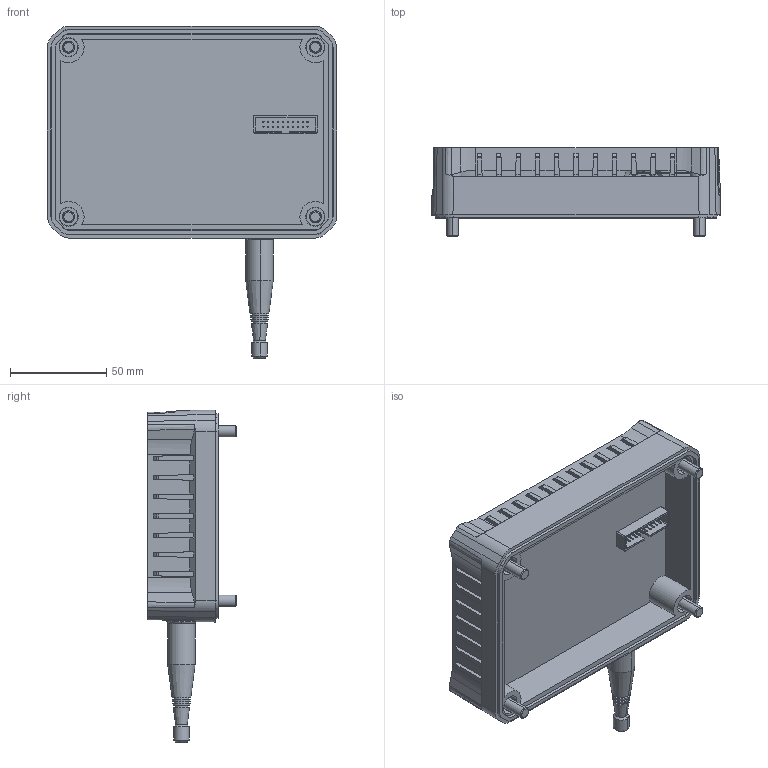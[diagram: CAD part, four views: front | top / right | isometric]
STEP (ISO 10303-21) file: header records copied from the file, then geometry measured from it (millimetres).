
FILE_DESCRIPTION (( 'STEP AP203' ), '1' );
FILE_NAME ('S-1296.STEP', '2018-05-28T11:28:48', ( '' ), ( '' ), 'SwSTEP 2.0', 'SolidWorks 2018', '' );
FILE_SCHEMA (( 'CONFIG_CONTROL_DESIGN' ));
Products named in the file (1): S-1296
Bounding box: 150 x 46 x 172.25 mm (x, y, z)
Volume: 316400.3 mm3; surface area: 79549.5 mm2
Topology: 4 solids, 11 shells, 1164 faces, 6204 edges, 5293 vertices
Faces by surface type: plane 707, cylinder 263, cone 118, bspline 38, torus 38
Entity records: 66402 total; most frequent: CARTESIAN_POINT 18245, ORIENTED_EDGE 12312, DIRECTION 7425, EDGE_CURVE 6156, VERTEX_POINT 5293, LINE 4137, VECTOR 4137, AXIS2_PLACEMENT_3D 1644
